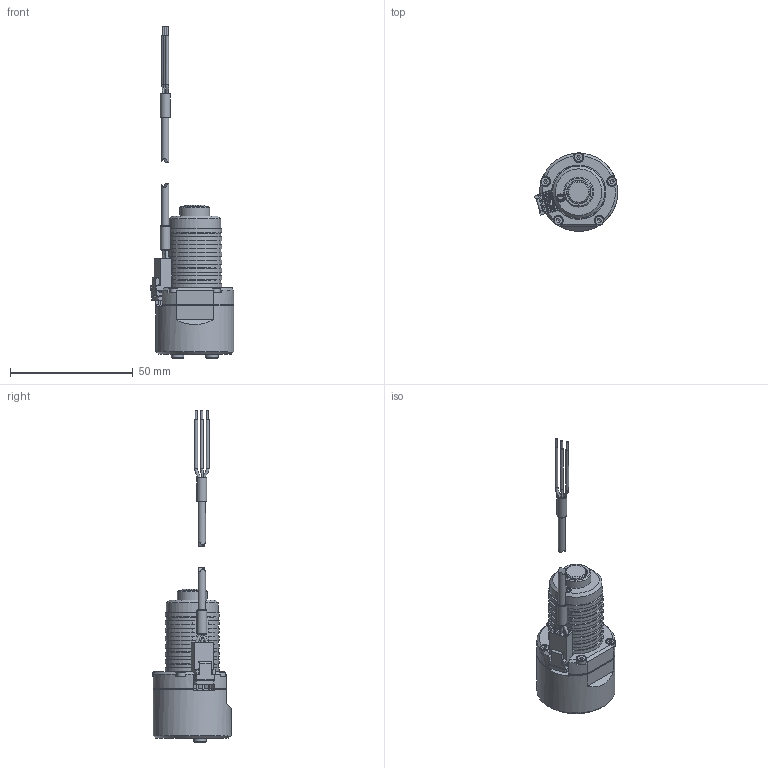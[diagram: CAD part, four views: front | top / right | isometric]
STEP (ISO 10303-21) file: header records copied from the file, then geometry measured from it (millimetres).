
FILE_DESCRIPTION (( 'STEP AP214' ), '1' );
FILE_NAME ('MGD1000M-A REV 2.STEP', '2018-12-14T10:20:16', ( '' ), ( '' ), 'SwSTEP 2.0', 'SolidWorks 2016', '' );
FILE_SCHEMA (( 'AUTOMOTIVE_DESIGN' ));
Length unit declared in the file: millimetre
Products named in the file (15): P-0733; P-0729; E20D-01; P-0730; P-0101_M2x10 Screw; P-0873; P-0305_B18.3.6M - M3 x 0.5 x 4 Hex Socket Flat Pt. SS --C; E20D; MGD1000M-A REV 2; P-0736; P-1244_MANIFOLD; P-0874; P-0731; P-0871; P-0872
Assembly tree (21 placements, depth 4):
  MGD1000M-A REV 2
    E20D
      P-0731
      P-0733
      E20D-01
        P-0736
        P-0730
      P-0101_M2x10 Screw  x5
      P-0305_B18.3.6M - M3 x 0.5 x 4 Hex Socket Flat Pt. SS --C
    P-1244_MANIFOLD
    P-0872
      P-0729
      P-0871  x3
      P-0873
      P-0874  x2
Bounding box: 34.13 x 32.13 x 135.5 mm (x, y, z)
Volume: 21695.1 mm3; surface area: 15596.2 mm2
Topology: 19 solids, 19 shells, 641 faces, 1586 edges, 1026 vertices
Faces by surface type: plane 415, cylinder 149, cone 59, torus 10, bspline 8
Full cylindrical faces by diameter (mm): 0.8 x6, 1 x6, 1.2 x3, 1.6 x11, 2 x5, 2.1 x5, 2.5 x1, 3 x5, 3.3 x2, 3.8 x7, 4 x2, 5.1 x2, 6 x1, 9.2 x1, 9.8 x1, 11 x1, 12.2 x1, 15 x1, 20.1 x1, 21.3 x2, 22 x1, 22.1 x1, 31.9 x1
Entity records: 16071 total; most frequent: CARTESIAN_POINT 3301, DIRECTION 2264, ORIENTED_EDGE 2094, EDGE_CURVE 1047, AXIS2_PLACEMENT_3D 779, VERTEX_POINT 732, VECTOR 706, LINE 706
